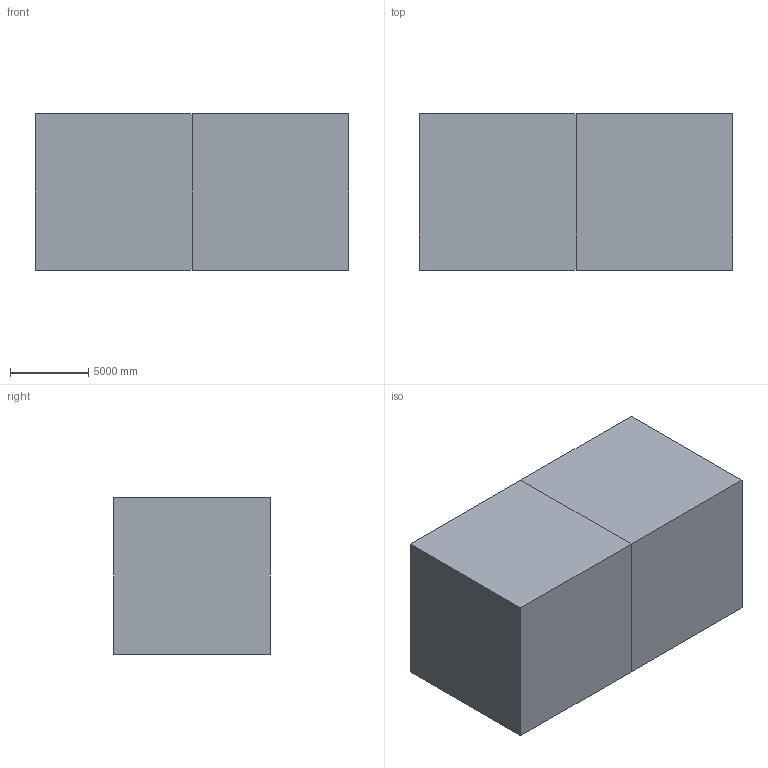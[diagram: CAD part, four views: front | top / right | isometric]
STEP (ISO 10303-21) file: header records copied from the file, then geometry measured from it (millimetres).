
FILE_DESCRIPTION ((), '1');
FILE_NAME ('/Users/hbauman/Downloads/example.step', '2025-08-11T12:47:05', ('Unknown'), ('Unknown'), 'HarmonyWare STEP v2.1.5', 'HarmonyWare Translators', '');
FILE_SCHEMA (('CONFIG_CONTROL_DESIGN'));
Length unit declared in the file: metre
Bounding box: 20000 x 10000 x 10000 mm (x, y, z)
Volume: 2000000000000 mm3; surface area: 1200000000 mm2
Topology: 2 solids, 2 shells, 12 faces, 24 edges, 16 vertices
Faces by surface type: bspline 12
Entity records: 369 total; most frequent: CARTESIAN_POINT 112, ORIENTED_EDGE 48, B_SPLINE_CURVE_WITH_KNOTS 24, EDGE_CURVE 24, VERTEX_POINT 16, EDGE_LOOP 12, FACE_OUTER_BOUND 12, B_SPLINE_SURFACE_WITH_KNOTS 12
